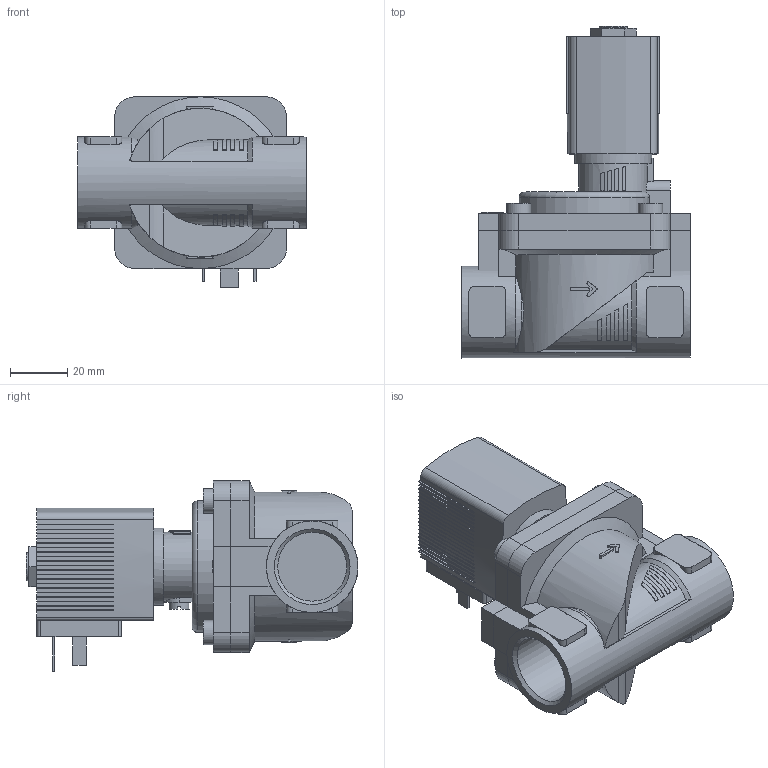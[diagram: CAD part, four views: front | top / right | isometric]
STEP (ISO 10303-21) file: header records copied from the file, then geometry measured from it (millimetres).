
FILE_DESCRIPTION(/* description */ ('STEP AP214'),/* implementation_level */ '2;1');
FILE_NAME(/* name */ '6281-372228-2_2-Way_Solenoid_Valve__Servo-assisted__General_Purpose',/* time_stamp */ '2024-08-20T17:18:19+02:00',/* author */ ('License CC BY-ND 4.0'),/* organization */ ('CADENAS'),/* preprocessor_version */ 'ST-DEVELOPER v19.3',/* originating_system */ 'PARTsolutions',/* authorisation */ ' ');
FILE_SCHEMA (('AUTOMOTIVE_DESIGN {1 0 10303 214 3 1 1}'));
Length unit declared in the file: millimetre
Products named in the file (4): 6281-372228-2/2-Way Solenoid Valve, Servo-assisted, General Purpose; 5281ev202VA2/2-Wege-Magnetventil mit Servomembran-Deckel  HA15 ; 6213-20G3/4VA-Gehaeuse-; AC10ex-5OO-Plan-Coil
Assembly tree (3 placements, depth 2):
  6281-372228-2/2-Way Solenoid Valve, Servo-assisted, General Purpose
    5281ev202VA2/2-Wege-Magnetventil mit Servomembran-Deckel  HA15 
    6213-20G3/4VA-Gehaeuse-
    AC10ex-5OO-Plan-Coil
Bounding box: 80 x 116 x 66.5 mm (x, y, z)
Volume: 198979.3 mm3; surface area: 43186.3 mm2
Topology: 3 solids, 3 shells, 545 faces, 1495 edges, 990 vertices
Faces by surface type: plane 439, cylinder 88, cone 17, torus 1
Full cylindrical faces by diameter (mm): 2.013 x1, 7 x1, 8.5 x4, 9.74 x1, 24.117 x2, 27 x1, 32 x1
Entity records: 19871 total; most frequent: CARTESIAN_POINT 3257, ORIENTED_EDGE 2936, DIRECTION 2822, EDGE_CURVE 1468, LINE 1072, VECTOR 1072, VERTEX_POINT 980, AXIS2_PLACEMENT_3D 875
